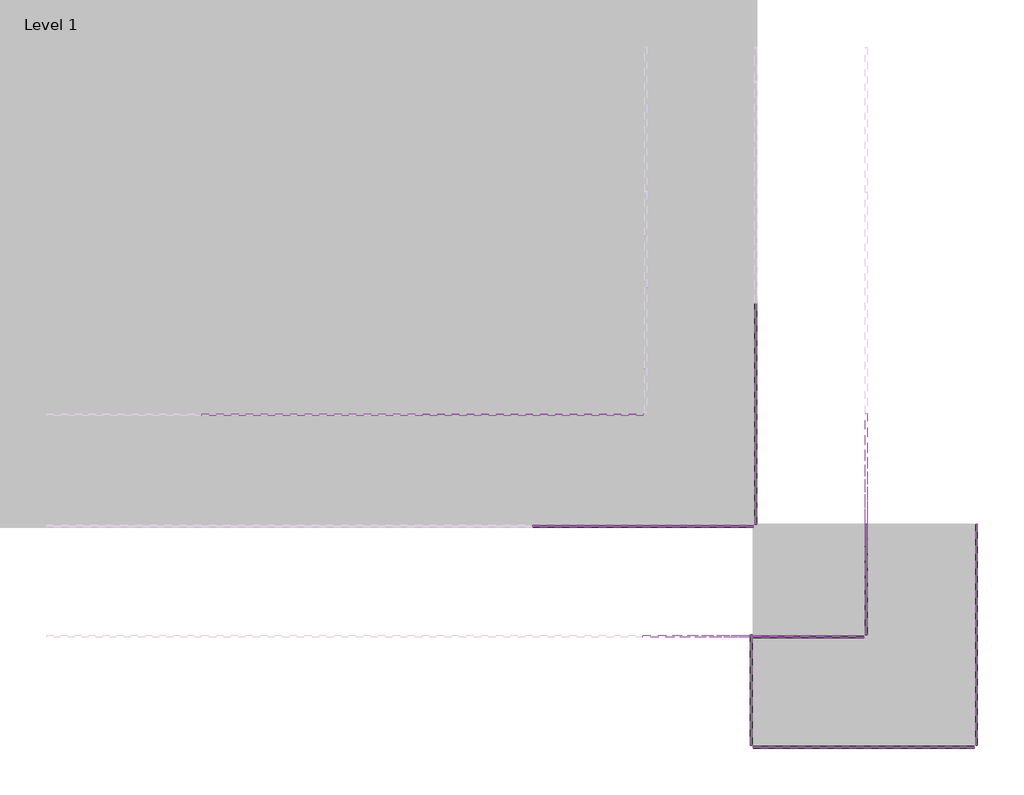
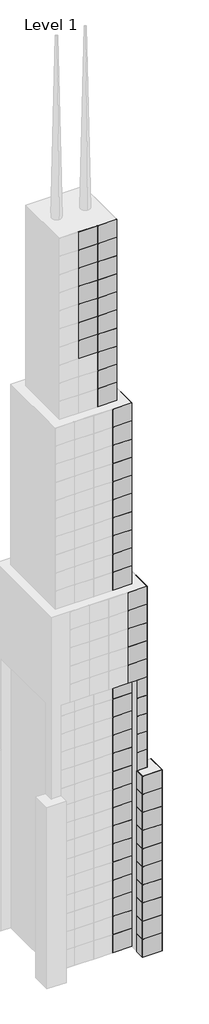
# One storey, part 6 of 15: 138 plates.
"""IFC4 building model written with IfcOpenShell, lengths in millimetres."""

from ifc_helpers import new_model, si_unit, origin, place, context, project, spatial, transform, mapped, element, save
from components import system_panel_glazed_9c75bc08, system_panel_glazed_0a0842ec, system_panel_glazed_aa64d645, system_panel_glazed_b248394d

model = new_model("IFC4")

# Units and contexts
model_context = context("Model", 3, world=origin())
ifc_project = project(units=[si_unit("LENGTHUNIT", "METRE", prefix="MILLI")], contexts=[model_context])

# Site, building, storey
site = spatial("IfcSite", under=ifc_project)
building = spatial("IfcBuilding", under=site)
storey = spatial("IfcBuildingStorey", under=building, Name="Level 1", Elevation=0.0)

# Plates
placement = place(None, origin())
system_panel_glazed_shape = system_panel_glazed_9c75bc08(model_context)
element("IfcPlate", 1, ObjectType="System Panel : Glazed", at=placement, inside=storey, context=model_context, shape_type="MappedRepresentation", body=[
    mapped(system_panel_glazed_shape, transform((51834.2903978, -4602.9095598, 0.0), x_axis=(0.0, 1.0, 0.0), y_axis=(-1.0, 0.0, 0.0), z_axis=(0.0, 0.0, 1.0))),
])
element("IfcPlate", 2, ObjectType="System Panel : Glazed", at=placement, inside=storey, context=model_context, shape_type="MappedRepresentation", body=[
    mapped(system_panel_glazed_shape, transform((51834.2903978, -4602.9095598, 3048.0), x_axis=(0.0, 1.0, 0.0), y_axis=(-1.0, 0.0, 0.0), z_axis=(0.0, 0.0, 1.0))),
])
element("IfcPlate", 3, ObjectType="System Panel : Glazed", at=placement, inside=storey, context=model_context, shape_type="MappedRepresentation", body=[
    mapped(system_panel_glazed_shape, transform((51834.2903978, -4602.9095598, 6096.0), x_axis=(0.0, 1.0, 0.0), y_axis=(-1.0, 0.0, 0.0), z_axis=(0.0, 0.0, 1.0))),
])
element("IfcPlate", 4, ObjectType="System Panel : Glazed", at=placement, inside=storey, context=model_context, shape_type="MappedRepresentation", body=[
    mapped(system_panel_glazed_shape, transform((51834.2903978, -4602.9095598, 9144.0), x_axis=(0.0, 1.0, 0.0), y_axis=(-1.0, 0.0, 0.0), z_axis=(0.0, 0.0, 1.0))),
])
element("IfcPlate", 5, ObjectType="System Panel : Glazed", at=placement, inside=storey, context=model_context, shape_type="MappedRepresentation", body=[
    mapped(system_panel_glazed_shape, transform((51834.2903978, -4602.9095598, 12192.0), x_axis=(0.0, 1.0, 0.0), y_axis=(-1.0, 0.0, 0.0), z_axis=(0.0, 0.0, 1.0))),
])
element("IfcPlate", 6, ObjectType="System Panel : Glazed", at=placement, inside=storey, context=model_context, shape_type="MappedRepresentation", body=[
    mapped(system_panel_glazed_shape, transform((51834.2903978, -4602.9095598, 15240.0), x_axis=(0.0, 1.0, 0.0), y_axis=(-1.0, 0.0, 0.0), z_axis=(0.0, 0.0, 1.0))),
])
element("IfcPlate", 7, ObjectType="System Panel : Glazed", at=placement, inside=storey, context=model_context, shape_type="MappedRepresentation", body=[
    mapped(system_panel_glazed_shape, transform((51834.2903978, -4602.9095598, 18288.0), x_axis=(0.0, 1.0, 0.0), y_axis=(-1.0, 0.0, 0.0), z_axis=(0.0, 0.0, 1.0))),
])
element("IfcPlate", 8, ObjectType="System Panel : Glazed", at=placement, inside=storey, context=model_context, shape_type="MappedRepresentation", body=[
    mapped(system_panel_glazed_shape, transform((51834.2903978, -4602.9095598, 21336.0), x_axis=(0.0, 1.0, 0.0), y_axis=(-1.0, 0.0, 0.0), z_axis=(0.0, 0.0, 1.0))),
])
element("IfcPlate", 9, ObjectType="System Panel : Glazed", at=placement, inside=storey, context=model_context, shape_type="MappedRepresentation", body=[
    mapped(system_panel_glazed_shape, transform((51834.2903978, -4602.9095598, 24384.0), x_axis=(0.0, 1.0, 0.0), y_axis=(-1.0, 0.0, 0.0), z_axis=(0.0, 0.0, 1.0))),
])
element("IfcPlate", 10, ObjectType="System Panel : Glazed", at=placement, inside=storey, context=model_context, shape_type="MappedRepresentation", body=[
    mapped(system_panel_glazed_shape, transform((51834.2903978, -4602.9095598, 27432.0), x_axis=(0.0, 1.0, 0.0), y_axis=(-1.0, 0.0, 0.0), z_axis=(0.0, 0.0, 1.0))),
])
element("IfcPlate", 11, ObjectType="System Panel : Glazed", at=placement, inside=storey, context=model_context, shape_type="MappedRepresentation", body=[
    mapped(system_panel_glazed_shape, transform((51834.2903978, -4602.9095598, 30480.0), x_axis=(0.0, 1.0, 0.0), y_axis=(-1.0, 0.0, 0.0), z_axis=(0.0, 0.0, 1.0))),
])
element("IfcPlate", 12, ObjectType="System Panel : Glazed", at=placement, inside=storey, context=model_context, shape_type="MappedRepresentation", body=[
    mapped(system_panel_glazed_shape, transform((51834.2903978, -4602.9095598, 33528.0), x_axis=(0.0, 1.0, 0.0), y_axis=(-1.0, 0.0, 0.0), z_axis=(0.0, 0.0, 1.0))),
])
element("IfcPlate", 13, ObjectType="System Panel : Glazed", at=placement, inside=storey, context=model_context, shape_type="MappedRepresentation", body=[
    mapped(system_panel_glazed_shape, transform((51834.2903978, -4602.9095598, 36576.0), x_axis=(0.0, 1.0, 0.0), y_axis=(-1.0, 0.0, 0.0), z_axis=(0.0, 0.0, 1.0))),
])
element("IfcPlate", 14, ObjectType="System Panel : Glazed", at=placement, inside=storey, context=model_context, shape_type="MappedRepresentation", body=[
    mapped(system_panel_glazed_shape, transform((51834.2903978, -4602.9095598, 39624.0), x_axis=(0.0, 1.0, 0.0), y_axis=(-1.0, 0.0, 0.0), z_axis=(0.0, 0.0, 1.0))),
])
element("IfcPlate", 15, ObjectType="System Panel : Glazed", at=placement, inside=storey, context=model_context, shape_type="MappedRepresentation", body=[
    mapped(system_panel_glazed_shape, transform((51834.2903978, -4602.9095598, 42672.0), x_axis=(0.0, 1.0, 0.0), y_axis=(-1.0, 0.0, 0.0), z_axis=(0.0, 0.0, 1.0))),
])
element("IfcPlate", 16, ObjectType="System Panel : Glazed", at=placement, inside=storey, context=model_context, shape_type="MappedRepresentation", body=[
    mapped(system_panel_glazed_shape, transform((51072.2903978, -5364.9095598, 0.0), x_axis=(1.0, 0.0, 0.0), y_axis=(0.0, 1.0, 0.0), z_axis=(0.0, 0.0, 1.0))),
])
element("IfcPlate", 17, ObjectType="System Panel : Glazed", at=placement, inside=storey, context=model_context, shape_type="MappedRepresentation", body=[
    mapped(system_panel_glazed_shape, transform((51072.2903978, -5364.9095598, 3048.0), x_axis=(1.0, 0.0, 0.0), y_axis=(0.0, 1.0, 0.0), z_axis=(0.0, 0.0, 1.0))),
])
element("IfcPlate", 18, ObjectType="System Panel : Glazed", at=placement, inside=storey, context=model_context, shape_type="MappedRepresentation", body=[
    mapped(system_panel_glazed_shape, transform((51072.2903978, -5364.9095598, 6096.0), x_axis=(1.0, 0.0, 0.0), y_axis=(0.0, 1.0, 0.0), z_axis=(0.0, 0.0, 1.0))),
])
element("IfcPlate", 19, ObjectType="System Panel : Glazed", at=placement, inside=storey, context=model_context, shape_type="MappedRepresentation", body=[
    mapped(system_panel_glazed_shape, transform((51072.2903978, -5364.9095598, 9144.0), x_axis=(1.0, 0.0, 0.0), y_axis=(0.0, 1.0, 0.0), z_axis=(0.0, 0.0, 1.0))),
])
element("IfcPlate", 20, ObjectType="System Panel : Glazed", at=placement, inside=storey, context=model_context, shape_type="MappedRepresentation", body=[
    mapped(system_panel_glazed_shape, transform((51072.2903978, -5364.9095598, 12192.0), x_axis=(1.0, 0.0, 0.0), y_axis=(0.0, 1.0, 0.0), z_axis=(0.0, 0.0, 1.0))),
])
element("IfcPlate", 21, ObjectType="System Panel : Glazed", at=placement, inside=storey, context=model_context, shape_type="MappedRepresentation", body=[
    mapped(system_panel_glazed_shape, transform((51072.2903978, -5364.9095598, 15240.0), x_axis=(1.0, 0.0, 0.0), y_axis=(0.0, 1.0, 0.0), z_axis=(0.0, 0.0, 1.0))),
])
element("IfcPlate", 22, ObjectType="System Panel : Glazed", at=placement, inside=storey, context=model_context, shape_type="MappedRepresentation", body=[
    mapped(system_panel_glazed_shape, transform((51072.2903978, -5364.9095598, 18288.0), x_axis=(1.0, 0.0, 0.0), y_axis=(0.0, 1.0, 0.0), z_axis=(0.0, 0.0, 1.0))),
])
element("IfcPlate", 23, ObjectType="System Panel : Glazed", at=placement, inside=storey, context=model_context, shape_type="MappedRepresentation", body=[
    mapped(system_panel_glazed_shape, transform((51072.2903978, -5364.9095598, 21336.0), x_axis=(1.0, 0.0, 0.0), y_axis=(0.0, 1.0, 0.0), z_axis=(0.0, 0.0, 1.0))),
])
element("IfcPlate", 24, ObjectType="System Panel : Glazed", at=placement, inside=storey, context=model_context, shape_type="MappedRepresentation", body=[
    mapped(system_panel_glazed_shape, transform((51072.2903978, -5364.9095598, 24384.0), x_axis=(1.0, 0.0, 0.0), y_axis=(0.0, 1.0, 0.0), z_axis=(0.0, 0.0, 1.0))),
])
element("IfcPlate", 25, ObjectType="System Panel : Glazed", at=placement, inside=storey, context=model_context, shape_type="MappedRepresentation", body=[
    mapped(system_panel_glazed_shape, transform((51072.2903978, -5364.9095598, 27432.0), x_axis=(1.0, 0.0, 0.0), y_axis=(0.0, 1.0, 0.0), z_axis=(0.0, 0.0, 1.0))),
])
element("IfcPlate", 26, ObjectType="System Panel : Glazed", at=placement, inside=storey, context=model_context, shape_type="MappedRepresentation", body=[
    mapped(system_panel_glazed_shape, transform((51072.2903978, -5364.9095598, 30480.0), x_axis=(1.0, 0.0, 0.0), y_axis=(0.0, 1.0, 0.0), z_axis=(0.0, 0.0, 1.0))),
])
element("IfcPlate", 27, ObjectType="System Panel : Glazed", at=placement, inside=storey, context=model_context, shape_type="MappedRepresentation", body=[
    mapped(system_panel_glazed_shape, transform((51072.2903978, -5364.9095598, 33528.0), x_axis=(1.0, 0.0, 0.0), y_axis=(0.0, 1.0, 0.0), z_axis=(0.0, 0.0, 1.0))),
])
element("IfcPlate", 28, ObjectType="System Panel : Glazed", at=placement, inside=storey, context=model_context, shape_type="MappedRepresentation", body=[
    mapped(system_panel_glazed_shape, transform((51072.2903978, -5364.9095598, 36576.0), x_axis=(1.0, 0.0, 0.0), y_axis=(0.0, 1.0, 0.0), z_axis=(0.0, 0.0, 1.0))),
])
element("IfcPlate", 29, ObjectType="System Panel : Glazed", at=placement, inside=storey, context=model_context, shape_type="MappedRepresentation", body=[
    mapped(system_panel_glazed_shape, transform((51072.2903978, -5364.9095598, 39624.0), x_axis=(1.0, 0.0, 0.0), y_axis=(0.0, 1.0, 0.0), z_axis=(0.0, 0.0, 1.0))),
])
element("IfcPlate", 30, ObjectType="System Panel : Glazed", at=placement, inside=storey, context=model_context, shape_type="MappedRepresentation", body=[
    mapped(system_panel_glazed_shape, transform((51072.2903978, -5364.9095598, 42672.0), x_axis=(1.0, 0.0, 0.0), y_axis=(0.0, 1.0, 0.0), z_axis=(0.0, 0.0, 1.0))),
])
element("IfcPlate", 31, ObjectType="System Panel : Glazed", at=placement, inside=storey, context=model_context, shape_type="MappedRepresentation", body=[
    mapped(system_panel_glazed_shape, transform((50310.2903978, -6126.9095598, 0.0), x_axis=(0.0, -1.0, 0.0), y_axis=(1.0, 0.0, 0.0), z_axis=(0.0, 0.0, 1.0))),
])
element("IfcPlate", 32, ObjectType="System Panel : Glazed", at=placement, inside=storey, context=model_context, shape_type="MappedRepresentation", body=[
    mapped(system_panel_glazed_shape, transform((50310.2903978, -6126.9095598, 3048.0), x_axis=(0.0, -1.0, 0.0), y_axis=(1.0, 0.0, 0.0), z_axis=(0.0, 0.0, 1.0))),
])
element("IfcPlate", 33, ObjectType="System Panel : Glazed", at=placement, inside=storey, context=model_context, shape_type="MappedRepresentation", body=[
    mapped(system_panel_glazed_shape, transform((50310.2903978, -6126.9095598, 6096.0), x_axis=(0.0, -1.0, 0.0), y_axis=(1.0, 0.0, 0.0), z_axis=(0.0, 0.0, 1.0))),
])
element("IfcPlate", 34, ObjectType="System Panel : Glazed", at=placement, inside=storey, context=model_context, shape_type="MappedRepresentation", body=[
    mapped(system_panel_glazed_shape, transform((50310.2903978, -6126.9095598, 9144.0), x_axis=(0.0, -1.0, 0.0), y_axis=(1.0, 0.0, 0.0), z_axis=(0.0, 0.0, 1.0))),
])
element("IfcPlate", 35, ObjectType="System Panel : Glazed", at=placement, inside=storey, context=model_context, shape_type="MappedRepresentation", body=[
    mapped(system_panel_glazed_shape, transform((50310.2903978, -6126.9095598, 12192.0), x_axis=(0.0, -1.0, 0.0), y_axis=(1.0, 0.0, 0.0), z_axis=(0.0, 0.0, 1.0))),
])
element("IfcPlate", 36, ObjectType="System Panel : Glazed", at=placement, inside=storey, context=model_context, shape_type="MappedRepresentation", body=[
    mapped(system_panel_glazed_shape, transform((50310.2903978, -6126.9095598, 15240.0), x_axis=(0.0, -1.0, 0.0), y_axis=(1.0, 0.0, 0.0), z_axis=(0.0, 0.0, 1.0))),
])
element("IfcPlate", 37, ObjectType="System Panel : Glazed", at=placement, inside=storey, context=model_context, shape_type="MappedRepresentation", body=[
    mapped(system_panel_glazed_shape, transform((50310.2903978, -6126.9095598, 18288.0), x_axis=(0.0, -1.0, 0.0), y_axis=(1.0, 0.0, 0.0), z_axis=(0.0, 0.0, 1.0))),
])
element("IfcPlate", 38, ObjectType="System Panel : Glazed", at=placement, inside=storey, context=model_context, shape_type="MappedRepresentation", body=[
    mapped(system_panel_glazed_shape, transform((50310.2903978, -6126.9095598, 21336.0), x_axis=(0.0, -1.0, 0.0), y_axis=(1.0, 0.0, 0.0), z_axis=(0.0, 0.0, 1.0))),
])
element("IfcPlate", 39, ObjectType="System Panel : Glazed", at=placement, inside=storey, context=model_context, shape_type="MappedRepresentation", body=[
    mapped(system_panel_glazed_shape, transform((50310.2903978, -6126.9095598, 24384.0), x_axis=(0.0, -1.0, 0.0), y_axis=(1.0, 0.0, 0.0), z_axis=(0.0, 0.0, 1.0))),
])
element("IfcPlate", 40, ObjectType="System Panel : Glazed", at=placement, inside=storey, context=model_context, shape_type="MappedRepresentation", body=[
    mapped(system_panel_glazed_shape, transform((50310.2903978, -6126.9095598, 27432.0), x_axis=(0.0, -1.0, 0.0), y_axis=(1.0, 0.0, 0.0), z_axis=(0.0, 0.0, 1.0))),
])
system_panel_glazed_2_shape = system_panel_glazed_0a0842ec(model_context)
element("IfcPlate", 41, ObjectType="System Panel : Glazed", at=placement, inside=storey, context=model_context, shape_type="MappedRepresentation", body=[
    mapped(system_panel_glazed_2_shape, transform((51834.2903978, -3840.9095598, 45720.0), x_axis=(0.0, 1.0, 0.0), y_axis=(-1.0, 0.0, 0.0), z_axis=(0.0, 0.0, 1.0))),
])
element("IfcPlate", 42, ObjectType="System Panel : Glazed", at=placement, inside=storey, context=model_context, shape_type="MappedRepresentation", body=[
    mapped(system_panel_glazed_2_shape, transform((50310.2903978, -5364.9095598, 45720.0), x_axis=(1.0, 0.0, 0.0), y_axis=(0.0, 1.0, 0.0), z_axis=(0.0, 0.0, 1.0))),
])
system_panel_glazed_3_shape = system_panel_glazed_aa64d645(model_context)
element("IfcPlate", 43, ObjectType="System Panel : Glazed", at=placement, inside=storey, context=model_context, shape_type="MappedRepresentation", body=[
    mapped(system_panel_glazed_3_shape, transform((51834.2903978, -3840.9095598, 48768.0), x_axis=(0.0, 1.0, 0.0), y_axis=(-1.0, 0.0, 0.0), z_axis=(0.0, 0.0, 1.0))),
])
element("IfcPlate", 44, ObjectType="System Panel : Glazed", at=placement, inside=storey, context=model_context, shape_type="MappedRepresentation", body=[
    mapped(system_panel_glazed_3_shape, transform((51834.2903978, -3840.9095598, 51816.0), x_axis=(0.0, 1.0, 0.0), y_axis=(-1.0, 0.0, 0.0), z_axis=(0.0, 0.0, 1.0))),
])
element("IfcPlate", 45, ObjectType="System Panel : Glazed", at=placement, inside=storey, context=model_context, shape_type="MappedRepresentation", body=[
    mapped(system_panel_glazed_3_shape, transform((51834.2903978, -3840.9095598, 54864.0), x_axis=(0.0, 1.0, 0.0), y_axis=(-1.0, 0.0, 0.0), z_axis=(0.0, 0.0, 1.0))),
])
element("IfcPlate", 46, ObjectType="System Panel : Glazed", at=placement, inside=storey, context=model_context, shape_type="MappedRepresentation", body=[
    mapped(system_panel_glazed_3_shape, transform((51834.2903978, -3840.9095598, 57912.0), x_axis=(0.0, 1.0, 0.0), y_axis=(-1.0, 0.0, 0.0), z_axis=(0.0, 0.0, 1.0))),
])
element("IfcPlate", 47, ObjectType="System Panel : Glazed", at=placement, inside=storey, context=model_context, shape_type="MappedRepresentation", body=[
    mapped(system_panel_glazed_3_shape, transform((50310.2903978, -5364.9095598, 48768.0), x_axis=(1.0, 0.0, 0.0), y_axis=(0.0, 1.0, 0.0), z_axis=(0.0, 0.0, 1.0))),
])
element("IfcPlate", 48, ObjectType="System Panel : Glazed", at=placement, inside=storey, context=model_context, shape_type="MappedRepresentation", body=[
    mapped(system_panel_glazed_3_shape, transform((50310.2903978, -5364.9095598, 51816.0), x_axis=(1.0, 0.0, 0.0), y_axis=(0.0, 1.0, 0.0), z_axis=(0.0, 0.0, 1.0))),
])
element("IfcPlate", 49, ObjectType="System Panel : Glazed", at=placement, inside=storey, context=model_context, shape_type="MappedRepresentation", body=[
    mapped(system_panel_glazed_3_shape, transform((50310.2903978, -5364.9095598, 54864.0), x_axis=(1.0, 0.0, 0.0), y_axis=(0.0, 1.0, 0.0), z_axis=(0.0, 0.0, 1.0))),
])
element("IfcPlate", 50, ObjectType="System Panel : Glazed", at=placement, inside=storey, context=model_context, shape_type="MappedRepresentation", body=[
    mapped(system_panel_glazed_3_shape, transform((50310.2903978, -5364.9095598, 57912.0), x_axis=(1.0, 0.0, 0.0), y_axis=(0.0, 1.0, 0.0), z_axis=(0.0, 0.0, 1.0))),
])
element("IfcPlate", 51, ObjectType="System Panel : Glazed", at=placement, inside=storey, context=model_context, shape_type="MappedRepresentation", body=[
    mapped(system_panel_glazed_3_shape, transform((50310.2903978, -2316.9095598, 60960.0), x_axis=(0.0, 1.0, 0.0), y_axis=(-1.0, 0.0, 0.0), z_axis=(0.0, 0.0, 1.0))),
])
element("IfcPlate", 52, ObjectType="System Panel : Glazed", at=placement, inside=storey, context=model_context, shape_type="MappedRepresentation", body=[
    mapped(system_panel_glazed_3_shape, transform((50310.2903978, -2316.9095598, 64008.0), x_axis=(0.0, 1.0, 0.0), y_axis=(-1.0, 0.0, 0.0), z_axis=(0.0, 0.0, 1.0))),
])
element("IfcPlate", 53, ObjectType="System Panel : Glazed", at=placement, inside=storey, context=model_context, shape_type="MappedRepresentation", body=[
    mapped(system_panel_glazed_3_shape, transform((50310.2903978, -2316.9095598, 67056.0), x_axis=(0.0, 1.0, 0.0), y_axis=(-1.0, 0.0, 0.0), z_axis=(0.0, 0.0, 1.0))),
])
element("IfcPlate", 54, ObjectType="System Panel : Glazed", at=placement, inside=storey, context=model_context, shape_type="MappedRepresentation", body=[
    mapped(system_panel_glazed_3_shape, transform((50310.2903978, -2316.9095598, 70104.0), x_axis=(0.0, 1.0, 0.0), y_axis=(-1.0, 0.0, 0.0), z_axis=(0.0, 0.0, 1.0))),
])
element("IfcPlate", 55, ObjectType="System Panel : Glazed", at=placement, inside=storey, context=model_context, shape_type="MappedRepresentation", body=[
    mapped(system_panel_glazed_3_shape, transform((50310.2903978, -2316.9095598, 73152.0), x_axis=(0.0, 1.0, 0.0), y_axis=(-1.0, 0.0, 0.0), z_axis=(0.0, 0.0, 1.0))),
])
element("IfcPlate", 56, ObjectType="System Panel : Glazed", at=placement, inside=storey, context=model_context, shape_type="MappedRepresentation", body=[
    mapped(system_panel_glazed_3_shape, transform((50310.2903978, -2316.9095598, 76200.0), x_axis=(0.0, 1.0, 0.0), y_axis=(-1.0, 0.0, 0.0), z_axis=(0.0, 0.0, 1.0))),
])
element("IfcPlate", 57, ObjectType="System Panel : Glazed", at=placement, inside=storey, context=model_context, shape_type="MappedRepresentation", body=[
    mapped(system_panel_glazed_3_shape, transform((50310.2903978, -2316.9095598, 79248.0), x_axis=(0.0, 1.0, 0.0), y_axis=(-1.0, 0.0, 0.0), z_axis=(0.0, 0.0, 1.0))),
])
element("IfcPlate", 58, ObjectType="System Panel : Glazed", at=placement, inside=storey, context=model_context, shape_type="MappedRepresentation", body=[
    mapped(system_panel_glazed_3_shape, transform((50310.2903978, -2316.9095598, 82296.0), x_axis=(0.0, 1.0, 0.0), y_axis=(-1.0, 0.0, 0.0), z_axis=(0.0, 0.0, 1.0))),
])
element("IfcPlate", 59, ObjectType="System Panel : Glazed", at=placement, inside=storey, context=model_context, shape_type="MappedRepresentation", body=[
    mapped(system_panel_glazed_3_shape, transform((50310.2903978, -2316.9095598, 85344.0), x_axis=(0.0, 1.0, 0.0), y_axis=(-1.0, 0.0, 0.0), z_axis=(0.0, 0.0, 1.0))),
])
element("IfcPlate", 60, ObjectType="System Panel : Glazed", at=placement, inside=storey, context=model_context, shape_type="MappedRepresentation", body=[
    mapped(system_panel_glazed_3_shape, transform((50310.2903978, -2316.9095598, 88392.0), x_axis=(0.0, 1.0, 0.0), y_axis=(-1.0, 0.0, 0.0), z_axis=(0.0, 0.0, 1.0))),
])
element("IfcPlate", 61, ObjectType="System Panel : Glazed", at=placement, inside=storey, context=model_context, shape_type="MappedRepresentation", body=[
    mapped(system_panel_glazed_3_shape, transform((48786.2903978, -3840.9095598, 60960.0), x_axis=(1.0, 0.0, 0.0), y_axis=(0.0, 1.0, 0.0), z_axis=(0.0, 0.0, 1.0))),
])
element("IfcPlate", 62, ObjectType="System Panel : Glazed", at=placement, inside=storey, context=model_context, shape_type="MappedRepresentation", body=[
    mapped(system_panel_glazed_3_shape, transform((48786.2903978, -3840.9095598, 64008.0), x_axis=(1.0, 0.0, 0.0), y_axis=(0.0, 1.0, 0.0), z_axis=(0.0, 0.0, 1.0))),
])
element("IfcPlate", 63, ObjectType="System Panel : Glazed", at=placement, inside=storey, context=model_context, shape_type="MappedRepresentation", body=[
    mapped(system_panel_glazed_3_shape, transform((48786.2903978, -3840.9095598, 67056.0), x_axis=(1.0, 0.0, 0.0), y_axis=(0.0, 1.0, 0.0), z_axis=(0.0, 0.0, 1.0))),
])
element("IfcPlate", 64, ObjectType="System Panel : Glazed", at=placement, inside=storey, context=model_context, shape_type="MappedRepresentation", body=[
    mapped(system_panel_glazed_3_shape, transform((48786.2903978, -3840.9095598, 70104.0), x_axis=(1.0, 0.0, 0.0), y_axis=(0.0, 1.0, 0.0), z_axis=(0.0, 0.0, 1.0))),
])
element("IfcPlate", 65, ObjectType="System Panel : Glazed", at=placement, inside=storey, context=model_context, shape_type="MappedRepresentation", body=[
    mapped(system_panel_glazed_3_shape, transform((48786.2903978, -3840.9095598, 73152.0), x_axis=(1.0, 0.0, 0.0), y_axis=(0.0, 1.0, 0.0), z_axis=(0.0, 0.0, 1.0))),
])
element("IfcPlate", 66, ObjectType="System Panel : Glazed", at=placement, inside=storey, context=model_context, shape_type="MappedRepresentation", body=[
    mapped(system_panel_glazed_3_shape, transform((48786.2903978, -3840.9095598, 76200.0), x_axis=(1.0, 0.0, 0.0), y_axis=(0.0, 1.0, 0.0), z_axis=(0.0, 0.0, 1.0))),
])
element("IfcPlate", 67, ObjectType="System Panel : Glazed", at=placement, inside=storey, context=model_context, shape_type="MappedRepresentation", body=[
    mapped(system_panel_glazed_3_shape, transform((48786.2903978, -3840.9095598, 79248.0), x_axis=(1.0, 0.0, 0.0), y_axis=(0.0, 1.0, 0.0), z_axis=(0.0, 0.0, 1.0))),
])
element("IfcPlate", 68, ObjectType="System Panel : Glazed", at=placement, inside=storey, context=model_context, shape_type="MappedRepresentation", body=[
    mapped(system_panel_glazed_3_shape, transform((48786.2903978, -3840.9095598, 82296.0), x_axis=(1.0, 0.0, 0.0), y_axis=(0.0, 1.0, 0.0), z_axis=(0.0, 0.0, 1.0))),
])
element("IfcPlate", 69, ObjectType="System Panel : Glazed", at=placement, inside=storey, context=model_context, shape_type="MappedRepresentation", body=[
    mapped(system_panel_glazed_3_shape, transform((48786.2903978, -3840.9095598, 85344.0), x_axis=(1.0, 0.0, 0.0), y_axis=(0.0, 1.0, 0.0), z_axis=(0.0, 0.0, 1.0))),
])
element("IfcPlate", 70, ObjectType="System Panel : Glazed", at=placement, inside=storey, context=model_context, shape_type="MappedRepresentation", body=[
    mapped(system_panel_glazed_3_shape, transform((48786.2903978, -3840.9095598, 88392.0), x_axis=(1.0, 0.0, 0.0), y_axis=(0.0, 1.0, 0.0), z_axis=(0.0, 0.0, 1.0))),
])
element("IfcPlate", 71, ObjectType="System Panel : Glazed", at=placement, inside=storey, context=model_context, shape_type="MappedRepresentation", body=[
    mapped(system_panel_glazed_3_shape, transform((48791.8576677, -792.9095598, 91440.0), x_axis=(0.0, 1.0, 0.0), y_axis=(-1.0, 0.0, 0.0), z_axis=(0.0, 0.0, 1.0))),
])
element("IfcPlate", 72, ObjectType="System Panel : Glazed", at=placement, inside=storey, context=model_context, shape_type="MappedRepresentation", body=[
    mapped(system_panel_glazed_3_shape, transform((47267.8576677, -2316.9095598, 91440.0), x_axis=(1.0, 0.0, 0.0), y_axis=(0.0, 1.0, 0.0), z_axis=(0.0, 0.0, 1.0))),
])
element("IfcPlate", 73, ObjectType="System Panel : Glazed", at=placement, inside=storey, context=model_context, shape_type="MappedRepresentation", body=[
    mapped(system_panel_glazed_3_shape, transform((47267.8576677, -2316.9095598, 94488.0), x_axis=(1.0, 0.0, 0.0), y_axis=(0.0, 1.0, 0.0), z_axis=(0.0, 0.0, 1.0))),
])
element("IfcPlate", 74, ObjectType="System Panel : Glazed", at=placement, inside=storey, context=model_context, shape_type="MappedRepresentation", body=[
    mapped(system_panel_glazed_3_shape, transform((47267.8576677, -2316.9095598, 97536.0), x_axis=(1.0, 0.0, 0.0), y_axis=(0.0, 1.0, 0.0), z_axis=(0.0, 0.0, 1.0))),
])
element("IfcPlate", 75, ObjectType="System Panel : Glazed", at=placement, inside=storey, context=model_context, shape_type="MappedRepresentation", body=[
    mapped(system_panel_glazed_3_shape, transform((44219.8576677, -2316.9095598, 100584.0), x_axis=(1.0, 0.0, 0.0), y_axis=(0.0, 1.0, 0.0), z_axis=(0.0, 0.0, 1.0))),
])
element("IfcPlate", 76, ObjectType="System Panel : Glazed", at=placement, inside=storey, context=model_context, shape_type="MappedRepresentation", body=[
    mapped(system_panel_glazed_3_shape, transform((47267.8576677, -2316.9095598, 100584.0), x_axis=(1.0, 0.0, 0.0), y_axis=(0.0, 1.0, 0.0), z_axis=(0.0, 0.0, 1.0))),
])
element("IfcPlate", 77, ObjectType="System Panel : Glazed", at=placement, inside=storey, context=model_context, shape_type="MappedRepresentation", body=[
    mapped(system_panel_glazed_3_shape, transform((44219.8576677, -2316.9095598, 103632.0), x_axis=(1.0, 0.0, 0.0), y_axis=(0.0, 1.0, 0.0), z_axis=(0.0, 0.0, 1.0))),
])
element("IfcPlate", 78, ObjectType="System Panel : Glazed", at=placement, inside=storey, context=model_context, shape_type="MappedRepresentation", body=[
    mapped(system_panel_glazed_3_shape, transform((47267.8576677, -2316.9095598, 103632.0), x_axis=(1.0, 0.0, 0.0), y_axis=(0.0, 1.0, 0.0), z_axis=(0.0, 0.0, 1.0))),
])
element("IfcPlate", 79, ObjectType="System Panel : Glazed", at=placement, inside=storey, context=model_context, shape_type="MappedRepresentation", body=[
    mapped(system_panel_glazed_3_shape, transform((44219.8576677, -2316.9095598, 106680.0), x_axis=(1.0, 0.0, 0.0), y_axis=(0.0, 1.0, 0.0), z_axis=(0.0, 0.0, 1.0))),
])
element("IfcPlate", 80, ObjectType="System Panel : Glazed", at=placement, inside=storey, context=model_context, shape_type="MappedRepresentation", body=[
    mapped(system_panel_glazed_3_shape, transform((47267.8576677, -2316.9095598, 106680.0), x_axis=(1.0, 0.0, 0.0), y_axis=(0.0, 1.0, 0.0), z_axis=(0.0, 0.0, 1.0))),
])
element("IfcPlate", 81, ObjectType="System Panel : Glazed", at=placement, inside=storey, context=model_context, shape_type="MappedRepresentation", body=[
    mapped(system_panel_glazed_3_shape, transform((44219.8576677, -2316.9095598, 109728.0), x_axis=(1.0, 0.0, 0.0), y_axis=(0.0, 1.0, 0.0), z_axis=(0.0, 0.0, 1.0))),
])
element("IfcPlate", 82, ObjectType="System Panel : Glazed", at=placement, inside=storey, context=model_context, shape_type="MappedRepresentation", body=[
    mapped(system_panel_glazed_3_shape, transform((47267.8576677, -2316.9095598, 109728.0), x_axis=(1.0, 0.0, 0.0), y_axis=(0.0, 1.0, 0.0), z_axis=(0.0, 0.0, 1.0))),
])
element("IfcPlate", 83, ObjectType="System Panel : Glazed", at=placement, inside=storey, context=model_context, shape_type="MappedRepresentation", body=[
    mapped(system_panel_glazed_3_shape, transform((44219.8576677, -2316.9095598, 112776.0), x_axis=(1.0, 0.0, 0.0), y_axis=(0.0, 1.0, 0.0), z_axis=(0.0, 0.0, 1.0))),
])
element("IfcPlate", 84, ObjectType="System Panel : Glazed", at=placement, inside=storey, context=model_context, shape_type="MappedRepresentation", body=[
    mapped(system_panel_glazed_3_shape, transform((47267.8576677, -2316.9095598, 112776.0), x_axis=(1.0, 0.0, 0.0), y_axis=(0.0, 1.0, 0.0), z_axis=(0.0, 0.0, 1.0))),
])
element("IfcPlate", 85, ObjectType="System Panel : Glazed", at=placement, inside=storey, context=model_context, shape_type="MappedRepresentation", body=[
    mapped(system_panel_glazed_3_shape, transform((44219.8576677, -2316.9095598, 115824.0), x_axis=(1.0, 0.0, 0.0), y_axis=(0.0, 1.0, 0.0), z_axis=(0.0, 0.0, 1.0))),
])
element("IfcPlate", 86, ObjectType="System Panel : Glazed", at=placement, inside=storey, context=model_context, shape_type="MappedRepresentation", body=[
    mapped(system_panel_glazed_3_shape, transform((47267.8576677, -2316.9095598, 115824.0), x_axis=(1.0, 0.0, 0.0), y_axis=(0.0, 1.0, 0.0), z_axis=(0.0, 0.0, 1.0))),
])
element("IfcPlate", 87, ObjectType="System Panel : Glazed", at=placement, inside=storey, context=model_context, shape_type="MappedRepresentation", body=[
    mapped(system_panel_glazed_3_shape, transform((44219.8576677, -2316.9095598, 118872.0), x_axis=(1.0, 0.0, 0.0), y_axis=(0.0, 1.0, 0.0), z_axis=(0.0, 0.0, 1.0))),
])
element("IfcPlate", 88, ObjectType="System Panel : Glazed", at=placement, inside=storey, context=model_context, shape_type="MappedRepresentation", body=[
    mapped(system_panel_glazed_3_shape, transform((47267.8576677, -2316.9095598, 118872.0), x_axis=(1.0, 0.0, 0.0), y_axis=(0.0, 1.0, 0.0), z_axis=(0.0, 0.0, 1.0))),
])
element("IfcPlate", 89, ObjectType="System Panel : Glazed", at=placement, inside=storey, context=model_context, shape_type="MappedRepresentation", body=[
    mapped(system_panel_glazed_3_shape, transform((53358.2903978, -5364.9095598, 0.0), x_axis=(0.0, 1.0, 0.0), y_axis=(-1.0, 0.0, 0.0), z_axis=(0.0, 0.0, 1.0))),
])
element("IfcPlate", 90, ObjectType="System Panel : Glazed", at=placement, inside=storey, context=model_context, shape_type="MappedRepresentation", body=[
    mapped(system_panel_glazed_3_shape, transform((53358.2903978, -5364.9095598, 3048.0), x_axis=(0.0, 1.0, 0.0), y_axis=(-1.0, 0.0, 0.0), z_axis=(0.0, 0.0, 1.0))),
])
element("IfcPlate", 91, ObjectType="System Panel : Glazed", at=placement, inside=storey, context=model_context, shape_type="MappedRepresentation", body=[
    mapped(system_panel_glazed_3_shape, transform((53358.2903978, -5364.9095598, 6096.0), x_axis=(0.0, 1.0, 0.0), y_axis=(-1.0, 0.0, 0.0), z_axis=(0.0, 0.0, 1.0))),
])
element("IfcPlate", 92, ObjectType="System Panel : Glazed", at=placement, inside=storey, context=model_context, shape_type="MappedRepresentation", body=[
    mapped(system_panel_glazed_3_shape, transform((53358.2903978, -5364.9095598, 9144.0), x_axis=(0.0, 1.0, 0.0), y_axis=(-1.0, 0.0, 0.0), z_axis=(0.0, 0.0, 1.0))),
])
element("IfcPlate", 93, ObjectType="System Panel : Glazed", at=placement, inside=storey, context=model_context, shape_type="MappedRepresentation", body=[
    mapped(system_panel_glazed_3_shape, transform((53358.2903978, -5364.9095598, 12192.0), x_axis=(0.0, 1.0, 0.0), y_axis=(-1.0, 0.0, 0.0), z_axis=(0.0, 0.0, 1.0))),
])
element("IfcPlate", 94, ObjectType="System Panel : Glazed", at=placement, inside=storey, context=model_context, shape_type="MappedRepresentation", body=[
    mapped(system_panel_glazed_3_shape, transform((53358.2903978, -5364.9095598, 15240.0), x_axis=(0.0, 1.0, 0.0), y_axis=(-1.0, 0.0, 0.0), z_axis=(0.0, 0.0, 1.0))),
])
element("IfcPlate", 95, ObjectType="System Panel : Glazed", at=placement, inside=storey, context=model_context, shape_type="MappedRepresentation", body=[
    mapped(system_panel_glazed_3_shape, transform((53358.2903978, -5364.9095598, 18288.0), x_axis=(0.0, 1.0, 0.0), y_axis=(-1.0, 0.0, 0.0), z_axis=(0.0, 0.0, 1.0))),
])
element("IfcPlate", 96, ObjectType="System Panel : Glazed", at=placement, inside=storey, context=model_context, shape_type="MappedRepresentation", body=[
    mapped(system_panel_glazed_3_shape, transform((53358.2903978, -5364.9095598, 21336.0), x_axis=(0.0, 1.0, 0.0), y_axis=(-1.0, 0.0, 0.0), z_axis=(0.0, 0.0, 1.0))),
])
element("IfcPlate", 97, ObjectType="System Panel : Glazed", at=placement, inside=storey, context=model_context, shape_type="MappedRepresentation", body=[
    mapped(system_panel_glazed_3_shape, transform((53358.2903978, -5364.9095598, 24384.0), x_axis=(0.0, 1.0, 0.0), y_axis=(-1.0, 0.0, 0.0), z_axis=(0.0, 0.0, 1.0))),
])
element("IfcPlate", 98, ObjectType="System Panel : Glazed", at=placement, inside=storey, context=model_context, shape_type="MappedRepresentation", body=[
    mapped(system_panel_glazed_3_shape, transform((53358.2903978, -5364.9095598, 27432.0), x_axis=(0.0, 1.0, 0.0), y_axis=(-1.0, 0.0, 0.0), z_axis=(0.0, 0.0, 1.0))),
])
element("IfcPlate", 99, ObjectType="System Panel : Glazed", at=placement, inside=storey, context=model_context, shape_type="MappedRepresentation", body=[
    mapped(system_panel_glazed_3_shape, transform((51834.2903978, -6888.9095598, 0.0), x_axis=(1.0, 0.0, 0.0), y_axis=(0.0, 1.0, 0.0), z_axis=(0.0, 0.0, 1.0))),
])
element("IfcPlate", 100, ObjectType="System Panel : Glazed", at=placement, inside=storey, context=model_context, shape_type="MappedRepresentation", body=[
    mapped(system_panel_glazed_3_shape, transform((51834.2903978, -6888.9095598, 3048.0), x_axis=(1.0, 0.0, 0.0), y_axis=(0.0, 1.0, 0.0), z_axis=(0.0, 0.0, 1.0))),
])
element("IfcPlate", 101, ObjectType="System Panel : Glazed", at=placement, inside=storey, context=model_context, shape_type="MappedRepresentation", body=[
    mapped(system_panel_glazed_3_shape, transform((51834.2903978, -6888.9095598, 6096.0), x_axis=(1.0, 0.0, 0.0), y_axis=(0.0, 1.0, 0.0), z_axis=(0.0, 0.0, 1.0))),
])
element("IfcPlate", 102, ObjectType="System Panel : Glazed", at=placement, inside=storey, context=model_context, shape_type="MappedRepresentation", body=[
    mapped(system_panel_glazed_3_shape, transform((51834.2903978, -6888.9095598, 9144.0), x_axis=(1.0, 0.0, 0.0), y_axis=(0.0, 1.0, 0.0), z_axis=(0.0, 0.0, 1.0))),
])
element("IfcPlate", 103, ObjectType="System Panel : Glazed", at=placement, inside=storey, context=model_context, shape_type="MappedRepresentation", body=[
    mapped(system_panel_glazed_3_shape, transform((51834.2903978, -6888.9095598, 12192.0), x_axis=(1.0, 0.0, 0.0), y_axis=(0.0, 1.0, 0.0), z_axis=(0.0, 0.0, 1.0))),
])
element("IfcPlate", 104, ObjectType="System Panel : Glazed", at=placement, inside=storey, context=model_context, shape_type="MappedRepresentation", body=[
    mapped(system_panel_glazed_3_shape, transform((51834.2903978, -6888.9095598, 15240.0), x_axis=(1.0, 0.0, 0.0), y_axis=(0.0, 1.0, 0.0), z_axis=(0.0, 0.0, 1.0))),
])
element("IfcPlate", 105, ObjectType="System Panel : Glazed", at=placement, inside=storey, context=model_context, shape_type="MappedRepresentation", body=[
    mapped(system_panel_glazed_3_shape, transform((51834.2903978, -6888.9095598, 18288.0), x_axis=(1.0, 0.0, 0.0), y_axis=(0.0, 1.0, 0.0), z_axis=(0.0, 0.0, 1.0))),
])
element("IfcPlate", 106, ObjectType="System Panel : Glazed", at=placement, inside=storey, context=model_context, shape_type="MappedRepresentation", body=[
    mapped(system_panel_glazed_3_shape, transform((51834.2903978, -6888.9095598, 21336.0), x_axis=(1.0, 0.0, 0.0), y_axis=(0.0, 1.0, 0.0), z_axis=(0.0, 0.0, 1.0))),
])
element("IfcPlate", 107, ObjectType="System Panel : Glazed", at=placement, inside=storey, context=model_context, shape_type="MappedRepresentation", body=[
    mapped(system_panel_glazed_3_shape, transform((51834.2903978, -6888.9095598, 24384.0), x_axis=(1.0, 0.0, 0.0), y_axis=(0.0, 1.0, 0.0), z_axis=(0.0, 0.0, 1.0))),
])
element("IfcPlate", 108, ObjectType="System Panel : Glazed", at=placement, inside=storey, context=model_context, shape_type="MappedRepresentation", body=[
    mapped(system_panel_glazed_3_shape, transform((51834.2903978, -6888.9095598, 27432.0), x_axis=(1.0, 0.0, 0.0), y_axis=(0.0, 1.0, 0.0), z_axis=(0.0, 0.0, 1.0))),
])
system_panel_glazed_4_shape = system_panel_glazed_b248394d(model_context)
element("IfcPlate", 109, ObjectType="System Panel : Glazed", at=placement, inside=storey, context=model_context, shape_type="MappedRepresentation", body=[
    mapped(system_panel_glazed_4_shape, transform((48786.2903978, -3840.9095598, 0.0), x_axis=(-1.0, 0.0, 0.0), y_axis=(0.0, -1.0, 0.0), z_axis=(0.0, 0.0, 1.0))),
])
element("IfcPlate", 110, ObjectType="System Panel : Glazed", at=placement, inside=storey, context=model_context, shape_type="MappedRepresentation", body=[
    mapped(system_panel_glazed_4_shape, transform((48786.2903978, -3840.9095598, 3048.0), x_axis=(-1.0, 0.0, 0.0), y_axis=(0.0, -1.0, 0.0), z_axis=(0.0, 0.0, 1.0))),
])
element("IfcPlate", 111, ObjectType="System Panel : Glazed", at=placement, inside=storey, context=model_context, shape_type="MappedRepresentation", body=[
    mapped(system_panel_glazed_4_shape, transform((48786.2903978, -3840.9095598, 6096.0), x_axis=(-1.0, 0.0, 0.0), y_axis=(0.0, -1.0, 0.0), z_axis=(0.0, 0.0, 1.0))),
])
element("IfcPlate", 112, ObjectType="System Panel : Glazed", at=placement, inside=storey, context=model_context, shape_type="MappedRepresentation", body=[
    mapped(system_panel_glazed_4_shape, transform((48786.2903978, -3840.9095598, 9144.0), x_axis=(-1.0, 0.0, 0.0), y_axis=(0.0, -1.0, 0.0), z_axis=(0.0, 0.0, 1.0))),
])
element("IfcPlate", 113, ObjectType="System Panel : Glazed", at=placement, inside=storey, context=model_context, shape_type="MappedRepresentation", body=[
    mapped(system_panel_glazed_4_shape, transform((48786.2903978, -3840.9095598, 12192.0), x_axis=(-1.0, 0.0, 0.0), y_axis=(0.0, -1.0, 0.0), z_axis=(0.0, 0.0, 1.0))),
])
element("IfcPlate", 114, ObjectType="System Panel : Glazed", at=placement, inside=storey, context=model_context, shape_type="MappedRepresentation", body=[
    mapped(system_panel_glazed_4_shape, transform((48786.2903978, -3840.9095598, 15240.0), x_axis=(-1.0, 0.0, 0.0), y_axis=(0.0, -1.0, 0.0), z_axis=(0.0, 0.0, 1.0))),
])
element("IfcPlate", 115, ObjectType="System Panel : Glazed", at=placement, inside=storey, context=model_context, shape_type="MappedRepresentation", body=[
    mapped(system_panel_glazed_4_shape, transform((48786.2903978, -3840.9095598, 18288.0), x_axis=(-1.0, 0.0, 0.0), y_axis=(0.0, -1.0, 0.0), z_axis=(0.0, 0.0, 1.0))),
])
element("IfcPlate", 116, ObjectType="System Panel : Glazed", at=placement, inside=storey, context=model_context, shape_type="MappedRepresentation", body=[
    mapped(system_panel_glazed_4_shape, transform((48786.2903978, -3840.9095598, 21336.0), x_axis=(-1.0, 0.0, 0.0), y_axis=(0.0, -1.0, 0.0), z_axis=(0.0, 0.0, 1.0))),
])
element("IfcPlate", 117, ObjectType="System Panel : Glazed", at=placement, inside=storey, context=model_context, shape_type="MappedRepresentation", body=[
    mapped(system_panel_glazed_4_shape, transform((48786.2903978, -3840.9095598, 24384.0), x_axis=(-1.0, 0.0, 0.0), y_axis=(0.0, -1.0, 0.0), z_axis=(0.0, 0.0, 1.0))),
])
element("IfcPlate", 118, ObjectType="System Panel : Glazed", at=placement, inside=storey, context=model_context, shape_type="MappedRepresentation", body=[
    mapped(system_panel_glazed_4_shape, transform((48786.2903978, -3840.9095598, 27432.0), x_axis=(-1.0, 0.0, 0.0), y_axis=(0.0, -1.0, 0.0), z_axis=(0.0, 0.0, 1.0))),
])
element("IfcPlate", 119, ObjectType="System Panel : Glazed", at=placement, inside=storey, context=model_context, shape_type="MappedRepresentation", body=[
    mapped(system_panel_glazed_4_shape, transform((48786.2903978, -3840.9095598, 30480.0), x_axis=(-1.0, 0.0, 0.0), y_axis=(0.0, -1.0, 0.0), z_axis=(0.0, 0.0, 1.0))),
])
element("IfcPlate", 120, ObjectType="System Panel : Glazed", at=placement, inside=storey, context=model_context, shape_type="MappedRepresentation", body=[
    mapped(system_panel_glazed_4_shape, transform((48786.2903978, -3840.9095598, 33528.0), x_axis=(-1.0, 0.0, 0.0), y_axis=(0.0, -1.0, 0.0), z_axis=(0.0, 0.0, 1.0))),
])
element("IfcPlate", 121, ObjectType="System Panel : Glazed", at=placement, inside=storey, context=model_context, shape_type="MappedRepresentation", body=[
    mapped(system_panel_glazed_4_shape, transform((48786.2903978, -3840.9095598, 36576.0), x_axis=(-1.0, 0.0, 0.0), y_axis=(0.0, -1.0, 0.0), z_axis=(0.0, 0.0, 1.0))),
])
element("IfcPlate", 122, ObjectType="System Panel : Glazed", at=placement, inside=storey, context=model_context, shape_type="MappedRepresentation", body=[
    mapped(system_panel_glazed_4_shape, transform((48786.2903978, -3840.9095598, 39624.0), x_axis=(-1.0, 0.0, 0.0), y_axis=(0.0, -1.0, 0.0), z_axis=(0.0, 0.0, 1.0))),
])
element("IfcPlate", 123, ObjectType="System Panel : Glazed", at=placement, inside=storey, context=model_context, shape_type="MappedRepresentation", body=[
    mapped(system_panel_glazed_4_shape, transform((48786.2903978, -3840.9095598, 42672.0), x_axis=(-1.0, 0.0, 0.0), y_axis=(0.0, -1.0, 0.0), z_axis=(0.0, 0.0, 1.0))),
])
element("IfcPlate", 124, ObjectType="System Panel : Glazed", at=placement, inside=storey, context=model_context, shape_type="MappedRepresentation", body=[
    mapped(system_panel_glazed_4_shape, transform((50310.2903978, -2316.9095598, 0.0), x_axis=(0.0, -1.0, 0.0), y_axis=(1.0, 0.0, 0.0), z_axis=(0.0, 0.0, 1.0))),
])
element("IfcPlate", 125, ObjectType="System Panel : Glazed", at=placement, inside=storey, context=model_context, shape_type="MappedRepresentation", body=[
    mapped(system_panel_glazed_4_shape, transform((50310.2903978, -2316.9095598, 3048.0), x_axis=(0.0, -1.0, 0.0), y_axis=(1.0, 0.0, 0.0), z_axis=(0.0, 0.0, 1.0))),
])
element("IfcPlate", 126, ObjectType="System Panel : Glazed", at=placement, inside=storey, context=model_context, shape_type="MappedRepresentation", body=[
    mapped(system_panel_glazed_4_shape, transform((50310.2903978, -2316.9095598, 6096.0), x_axis=(0.0, -1.0, 0.0), y_axis=(1.0, 0.0, 0.0), z_axis=(0.0, 0.0, 1.0))),
])
element("IfcPlate", 127, ObjectType="System Panel : Glazed", at=placement, inside=storey, context=model_context, shape_type="MappedRepresentation", body=[
    mapped(system_panel_glazed_4_shape, transform((50310.2903978, -2316.9095598, 9144.0), x_axis=(0.0, -1.0, 0.0), y_axis=(1.0, 0.0, 0.0), z_axis=(0.0, 0.0, 1.0))),
])
element("IfcPlate", 128, ObjectType="System Panel : Glazed", at=placement, inside=storey, context=model_context, shape_type="MappedRepresentation", body=[
    mapped(system_panel_glazed_4_shape, transform((50310.2903978, -2316.9095598, 12192.0), x_axis=(0.0, -1.0, 0.0), y_axis=(1.0, 0.0, 0.0), z_axis=(0.0, 0.0, 1.0))),
])
element("IfcPlate", 129, ObjectType="System Panel : Glazed", at=placement, inside=storey, context=model_context, shape_type="MappedRepresentation", body=[
    mapped(system_panel_glazed_4_shape, transform((50310.2903978, -2316.9095598, 15240.0), x_axis=(0.0, -1.0, 0.0), y_axis=(1.0, 0.0, 0.0), z_axis=(0.0, 0.0, 1.0))),
])
element("IfcPlate", 130, ObjectType="System Panel : Glazed", at=placement, inside=storey, context=model_context, shape_type="MappedRepresentation", body=[
    mapped(system_panel_glazed_4_shape, transform((50310.2903978, -2316.9095598, 18288.0), x_axis=(0.0, -1.0, 0.0), y_axis=(1.0, 0.0, 0.0), z_axis=(0.0, 0.0, 1.0))),
])
element("IfcPlate", 131, ObjectType="System Panel : Glazed", at=placement, inside=storey, context=model_context, shape_type="MappedRepresentation", body=[
    mapped(system_panel_glazed_4_shape, transform((50310.2903978, -2316.9095598, 21336.0), x_axis=(0.0, -1.0, 0.0), y_axis=(1.0, 0.0, 0.0), z_axis=(0.0, 0.0, 1.0))),
])
element("IfcPlate", 132, ObjectType="System Panel : Glazed", at=placement, inside=storey, context=model_context, shape_type="MappedRepresentation", body=[
    mapped(system_panel_glazed_4_shape, transform((50310.2903978, -2316.9095598, 24384.0), x_axis=(0.0, -1.0, 0.0), y_axis=(1.0, 0.0, 0.0), z_axis=(0.0, 0.0, 1.0))),
])
element("IfcPlate", 133, ObjectType="System Panel : Glazed", at=placement, inside=storey, context=model_context, shape_type="MappedRepresentation", body=[
    mapped(system_panel_glazed_4_shape, transform((50310.2903978, -2316.9095598, 27432.0), x_axis=(0.0, -1.0, 0.0), y_axis=(1.0, 0.0, 0.0), z_axis=(0.0, 0.0, 1.0))),
])
element("IfcPlate", 134, ObjectType="System Panel : Glazed", at=placement, inside=storey, context=model_context, shape_type="MappedRepresentation", body=[
    mapped(system_panel_glazed_4_shape, transform((50310.2903978, -2316.9095598, 30480.0), x_axis=(0.0, -1.0, 0.0), y_axis=(1.0, 0.0, 0.0), z_axis=(0.0, 0.0, 1.0))),
])
element("IfcPlate", 135, ObjectType="System Panel : Glazed", at=placement, inside=storey, context=model_context, shape_type="MappedRepresentation", body=[
    mapped(system_panel_glazed_4_shape, transform((50310.2903978, -2316.9095598, 33528.0), x_axis=(0.0, -1.0, 0.0), y_axis=(1.0, 0.0, 0.0), z_axis=(0.0, 0.0, 1.0))),
])
element("IfcPlate", 136, ObjectType="System Panel : Glazed", at=placement, inside=storey, context=model_context, shape_type="MappedRepresentation", body=[
    mapped(system_panel_glazed_4_shape, transform((50310.2903978, -2316.9095598, 36576.0), x_axis=(0.0, -1.0, 0.0), y_axis=(1.0, 0.0, 0.0), z_axis=(0.0, 0.0, 1.0))),
])
element("IfcPlate", 137, ObjectType="System Panel : Glazed", at=placement, inside=storey, context=model_context, shape_type="MappedRepresentation", body=[
    mapped(system_panel_glazed_4_shape, transform((50310.2903978, -2316.9095598, 39624.0), x_axis=(0.0, -1.0, 0.0), y_axis=(1.0, 0.0, 0.0), z_axis=(0.0, 0.0, 1.0))),
])
element("IfcPlate", 138, ObjectType="System Panel : Glazed", at=placement, inside=storey, context=model_context, shape_type="MappedRepresentation", body=[
    mapped(system_panel_glazed_4_shape, transform((50310.2903978, -2316.9095598, 42672.0), x_axis=(0.0, -1.0, 0.0), y_axis=(1.0, 0.0, 0.0), z_axis=(0.0, 0.0, 1.0))),
])

save(model, "model.ifc")
